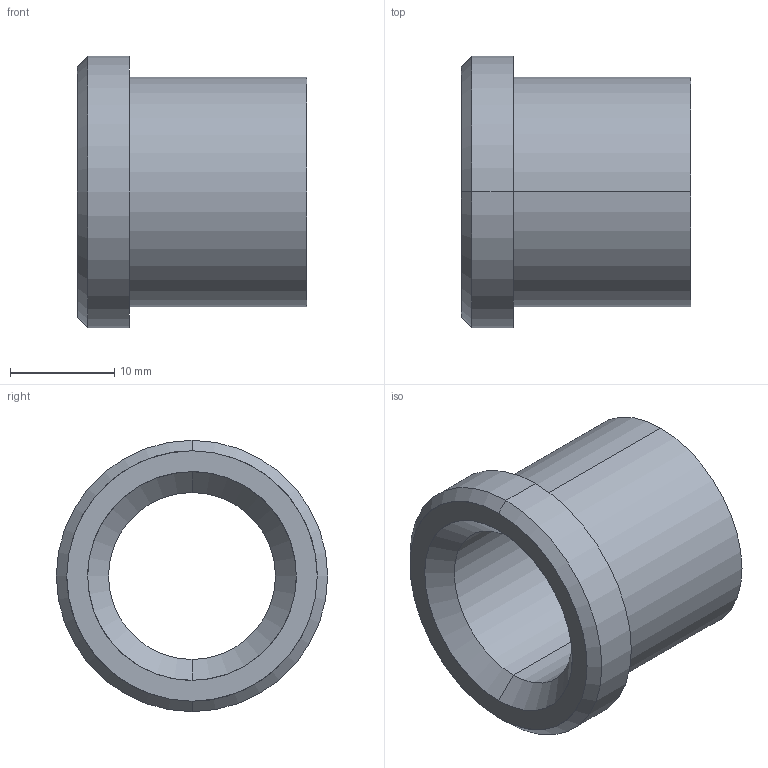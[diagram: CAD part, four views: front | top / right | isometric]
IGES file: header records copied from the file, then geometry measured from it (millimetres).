
Start section: START RECORD GO HERE.
Global section: file name: 353-16X22.igs; native system: DASSAULT SYSTEMES CATIA V5 R20 - www.3ds.com; preprocessor: CATIA Version 5 Release 20 ; author: Utente; organization: NB04-ASUS; date: 20210504.202015; units: millimetre
Bounding box: 22 x 26 x 26 mm (x, y, z)
Surface area: 3225 mm2 (no closed solid volume)
Topology: 0 solids, 0 shells, 15 faces, 96 edges, 96 vertices
Faces by surface type: revolution 12, plane 3
